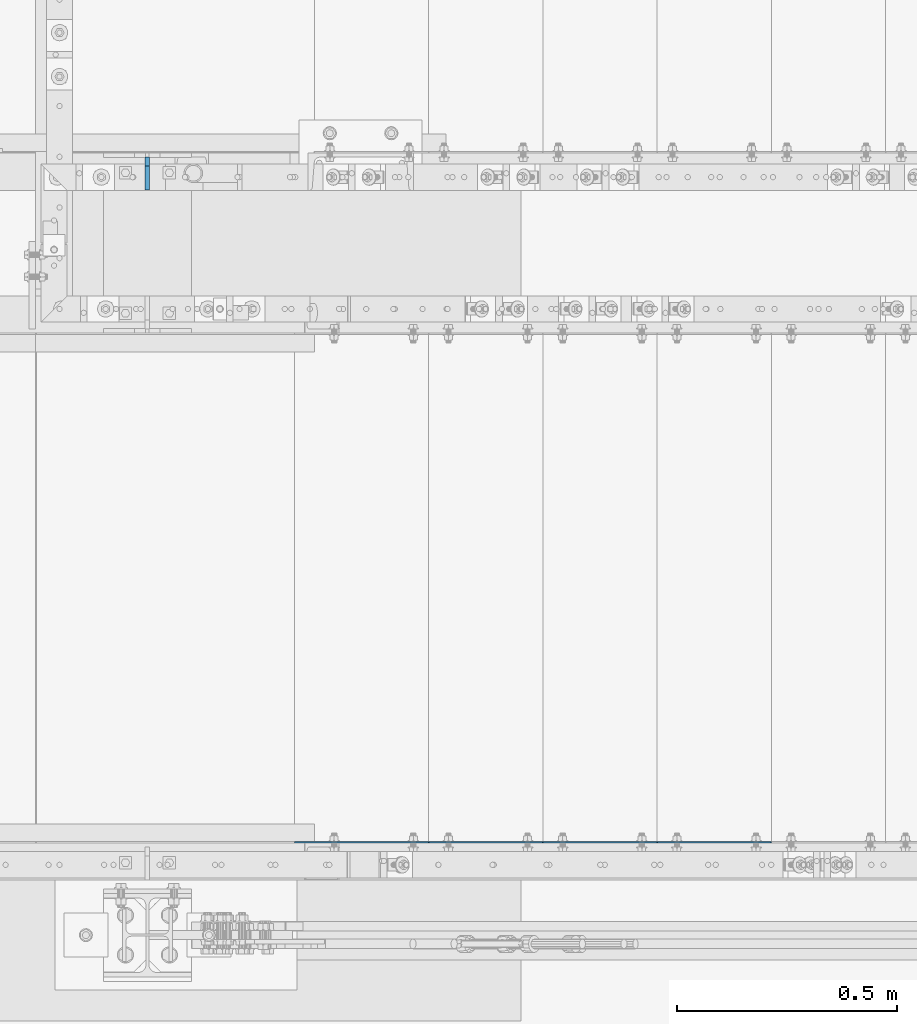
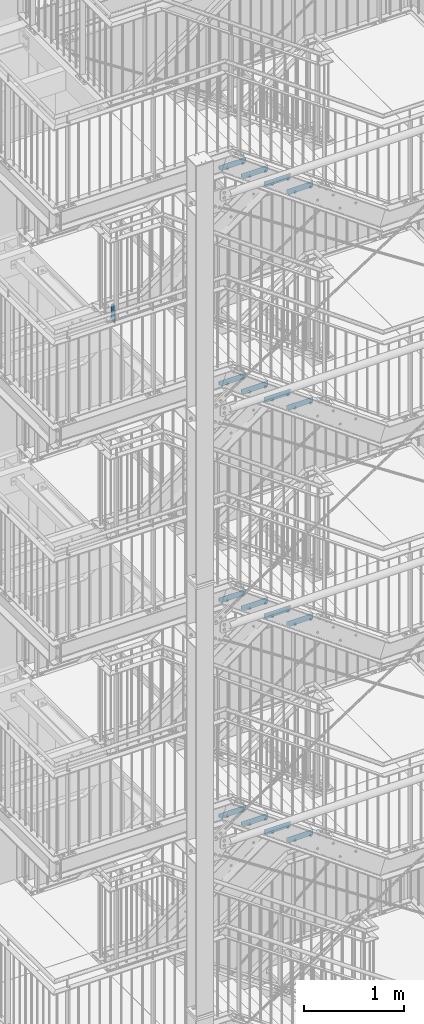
# One storey, part 165 of 821: 17 plates, 34 openings.
"""IFC2X3 building model written with IfcOpenShell, lengths in millimetres."""

from ifc_helpers import new_model, entity, si_unit, converted_unit, point, frame, frame_2d, origin, origin_with_axes, origin_2d_with_axis, place, context, project, spatial, polyline, circle_curve, line_curve, trimmed, segment, composite_curve, circle, outline, extrude, material, layer, layer_set, element, save


model = new_model("IFC2X3")

# Units and contexts
model_context = context("Model", 3, precision=1e-09, world=origin_with_axes())
ifc_project = project(units=[si_unit("LENGTHUNIT", "METRE", prefix="MILLI"), si_unit("AREAUNIT", "SQUARE_METRE"), si_unit("VOLUMEUNIT", "CUBIC_METRE"), converted_unit("PLANEANGLEUNIT", "DEGREE", entity("IfcPlaneAngleMeasure", 0.01745329), si_unit("PLANEANGLEUNIT", "RADIAN"), dimensions=[0, 0, 0, 0, 0, 0, 0])], contexts=[model_context])

# Site, building, storey
site_placement = place(None, origin_with_axes())
site = spatial("IfcSite", under=ifc_project, at=site_placement, Name="Cnopf'sche Kinderklinik", CompositionType="ELEMENT")
building_placement = place(site_placement, origin_with_axes())
building = spatial("IfcBuilding", under=site, at=building_placement, Name="Struktur 1", CompositionType="ELEMENT")
storey_placement = place(building_placement, origin_with_axes())
storey = spatial("IfcBuildingStorey", under=building, at=storey_placement, Name="Default Storey", CompositionType="ELEMENT", Elevation=0.0)

# Plate, openings
ifc_material = material(Name="S235JR")
ifc_layer_1 = layer(ifc_material, 3.0)
ifc_layer_set_1 = layer_set([ifc_layer_1], Name="S235JR")
plate_1_placement = place(None, frame((6016.713402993, 4576.736971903, 12056.0714287), z_axis=(0.0, 1.0, 0.0), x_axis=(0.0, 0.0, -1.0)))
plate_1 = element("IfcPlate", 1, at=plate_1_placement, inside=storey, material=ifc_layer_set_1, Name="Grate_Step#23", ObjectType="Grate_Step#23", context=model_context, shape_type="SweptSolid", body=[
    extrude(outline(polyline([(0.0, 0.0), (70.0, 0.0), (70.0, 275.0), (40.0, 305.0), (0.0, 305.0), (0.0, 0.0)])), origin_with_axes(), (0.0, 0.0, 1.0), 3.0),
])
opening_1_placement = place(plate_1_placement, frame((55.0, 215.0, 3.5), z_axis=(0.0, 0.0, -1.0), x_axis=(0.0, 1.0, 0.0)))
element("IfcOpeningElement", 2, at=opening_1_placement, cuts=plate_1, ObjectType="Opening", context=model_context, shape_type="SweptSolid", body=[
    extrude(outline(composite_curve([segment(trimmed(line_curve((-9.5, -7.001), (1.0, 0.0), 19.0), [point((-9.5, -7.001))], [point((9.5, -7.001))], True, "CARTESIAN"), True, "CONTINUOUS"), segment(trimmed(circle_curve(frame_2d((9.5, 0.0), x_axis=(1.0, 0.0)), 7.001), [point((9.5, -7.001))], [point((9.5, 7.001))], True, "CARTESIAN"), True, "CONTINUOUS"), segment(trimmed(line_curve((9.5, 7.001), (-1.0, 0.0), 19.0), [point((9.5, 7.001))], [point((-9.5, 7.001))], True, "CARTESIAN"), True, "CONTINUOUS"), segment(trimmed(circle_curve(frame_2d((-9.5, 0.0), x_axis=(1.0, 0.0)), 7.001), [point((-9.5, 7.001))], [point((-9.5, -7.001))], True, "CARTESIAN"), True, "CONTINUOUS")], self_intersect=False)), origin(), (0.0, 0.0, 1.0), 4.0),
])
opening_2_placement = place(plate_1_placement, frame((55.0, 35.0, 3.5), z_axis=(0.0, 0.0, -1.0), x_axis=(0.0, 1.0, 0.0)))
element("IfcOpeningElement", 3, at=opening_2_placement, cuts=plate_1, ObjectType="Opening", context=model_context, shape_type="SweptSolid", body=[
    extrude(circle(Radius=7.001, at=origin_2d_with_axis()), origin(), (0.0, 0.0, 1.0), 4.0),
])

plate_2_placement = place(None, frame((5496.713402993, 4576.736971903, 12431.3571429), z_axis=(0.0, 1.0, 0.0), x_axis=(0.0, 0.0, -1.0)))
plate_2 = element("IfcPlate", 4, at=plate_2_placement, inside=storey, material=ifc_layer_set_1, Name="Grate_Step#37", ObjectType="Grate_Step#37", context=model_context, shape_type="SweptSolid", body=[
    extrude(outline(polyline([(0.0, 0.0), (70.0, 0.0), (70.0, 275.0), (40.0, 305.0), (0.0, 305.0), (0.0, 0.0)])), origin_with_axes(), (0.0, 0.0, 1.0), 3.0),
])
opening_3_placement = place(plate_2_placement, frame((55.0, 35.0, 3.5), z_axis=(0.0, 0.0, -1.0), x_axis=(0.0, 1.0, 0.0)))
element("IfcOpeningElement", 5, at=opening_3_placement, cuts=plate_2, ObjectType="Opening", context=model_context, shape_type="SweptSolid", body=[
    extrude(circle(Radius=7.001, at=origin_2d_with_axis()), origin(), (0.0, 0.0, 1.0), 4.0),
])
opening_4_placement = place(plate_2_placement, frame((55.0, 215.0, 3.5), z_axis=(0.0, 0.0, -1.0), x_axis=(0.0, 1.0, 0.0)))
element("IfcOpeningElement", 6, at=opening_4_placement, cuts=plate_2, ObjectType="Opening", context=model_context, shape_type="SweptSolid", body=[
    extrude(outline(composite_curve([segment(trimmed(line_curve((-9.5, -7.001), (1.0, 0.0), 19.0), [point((-9.5, -7.001))], [point((9.5, -7.001))], True, "CARTESIAN"), True, "CONTINUOUS"), segment(trimmed(circle_curve(frame_2d((9.5, 0.0), x_axis=(1.0, 0.0)), 7.001), [point((9.5, -7.001))], [point((9.5, 7.001))], True, "CARTESIAN"), True, "CONTINUOUS"), segment(trimmed(line_curve((9.5, 7.001), (-1.0, 0.0), 19.0), [point((9.5, 7.001))], [point((-9.5, 7.001))], True, "CARTESIAN"), True, "CONTINUOUS"), segment(trimmed(circle_curve(frame_2d((-9.5, 0.0), x_axis=(1.0, 0.0)), 7.001), [point((-9.5, 7.001))], [point((-9.5, -7.001))], True, "CARTESIAN"), True, "CONTINUOUS")], self_intersect=False)), origin(), (0.0, 0.0, 1.0), 4.0),
])

plate_3_placement = place(None, frame((5756.713402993, 4576.736971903, 12243.7142858), z_axis=(0.0, 1.0, 0.0), x_axis=(0.0, 0.0, -1.0)))
plate_3 = element("IfcPlate", 7, at=plate_3_placement, inside=storey, material=ifc_layer_set_1, Name="Grate_Step#30", ObjectType="Grate_Step#30", context=model_context, shape_type="SweptSolid", body=[
    extrude(outline(polyline([(0.0, 0.0), (70.0, 0.0), (70.0, 275.0), (40.0, 305.0), (0.0, 305.0), (0.0, 0.0)])), origin_with_axes(), (0.0, 0.0, 1.0), 3.0),
])
opening_5_placement = place(plate_3_placement, frame((55.0, 35.0, 3.5), z_axis=(0.0, 0.0, -1.0), x_axis=(0.0, 1.0, 0.0)))
element("IfcOpeningElement", 8, at=opening_5_placement, cuts=plate_3, ObjectType="Opening", context=model_context, shape_type="SweptSolid", body=[
    extrude(circle(Radius=7.001, at=origin_2d_with_axis()), origin(), (0.0, 0.0, 1.0), 4.0),
])
opening_6_placement = place(plate_3_placement, frame((55.0, 215.0, 3.5), z_axis=(0.0, 0.0, -1.0), x_axis=(0.0, 1.0, 0.0)))
element("IfcOpeningElement", 9, at=opening_6_placement, cuts=plate_3, ObjectType="Opening", context=model_context, shape_type="SweptSolid", body=[
    extrude(outline(composite_curve([segment(trimmed(line_curve((-9.5, -7.001), (1.0, 0.0), 19.0), [point((-9.5, -7.001))], [point((9.5, -7.001))], True, "CARTESIAN"), True, "CONTINUOUS"), segment(trimmed(circle_curve(frame_2d((9.5, 0.0), x_axis=(1.0, 0.0)), 7.001), [point((9.5, -7.001))], [point((9.5, 7.001))], True, "CARTESIAN"), True, "CONTINUOUS"), segment(trimmed(line_curve((9.5, 7.001), (-1.0, 0.0), 19.0), [point((9.5, 7.001))], [point((-9.5, 7.001))], True, "CARTESIAN"), True, "CONTINUOUS"), segment(trimmed(circle_curve(frame_2d((-9.5, 0.0), x_axis=(1.0, 0.0)), 7.001), [point((-9.5, 7.001))], [point((-9.5, -7.001))], True, "CARTESIAN"), True, "CONTINUOUS")], self_intersect=False)), origin(), (0.0, 0.0, 1.0), 4.0),
])

plate_4_placement = place(None, frame((6276.713402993, 4576.736971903, 11868.4285716), z_axis=(0.0, 1.0, 0.0), x_axis=(0.0, 0.0, -1.0)))
plate_4 = element("IfcPlate", 10, at=plate_4_placement, inside=storey, material=ifc_layer_set_1, Name="Grate_Step#16", ObjectType="Grate_Step#16", context=model_context, shape_type="SweptSolid", body=[
    extrude(outline(polyline([(0.0, 0.0), (70.0, 0.0), (70.0, 275.0), (40.0, 305.0), (0.0, 305.0), (0.0, 0.0)])), origin_with_axes(), (0.0, 0.0, 1.0), 3.0),
])
opening_7_placement = place(plate_4_placement, frame((55.0, 35.0, 3.5), z_axis=(0.0, 0.0, -1.0), x_axis=(0.0, 1.0, 0.0)))
element("IfcOpeningElement", 11, at=opening_7_placement, cuts=plate_4, ObjectType="Opening", context=model_context, shape_type="SweptSolid", body=[
    extrude(circle(Radius=7.001, at=origin_2d_with_axis()), origin(), (0.0, 0.0, 1.0), 4.0),
])
opening_8_placement = place(plate_4_placement, frame((55.0, 215.0, 3.5), z_axis=(0.0, 0.0, -1.0), x_axis=(0.0, 1.0, 0.0)))
element("IfcOpeningElement", 12, at=opening_8_placement, cuts=plate_4, ObjectType="Opening", context=model_context, shape_type="SweptSolid", body=[
    extrude(outline(composite_curve([segment(trimmed(line_curve((-9.5, -7.001), (1.0, 0.0), 19.0), [point((-9.5, -7.001))], [point((9.5, -7.001))], True, "CARTESIAN"), True, "CONTINUOUS"), segment(trimmed(circle_curve(frame_2d((9.5, 0.0), x_axis=(1.0, 0.0)), 7.001), [point((9.5, -7.001))], [point((9.5, 7.001))], True, "CARTESIAN"), True, "CONTINUOUS"), segment(trimmed(line_curve((9.5, 7.001), (-1.0, 0.0), 19.0), [point((9.5, 7.001))], [point((-9.5, 7.001))], True, "CARTESIAN"), True, "CONTINUOUS"), segment(trimmed(circle_curve(frame_2d((-9.5, 0.0), x_axis=(1.0, 0.0)), 7.001), [point((-9.5, 7.001))], [point((-9.5, -7.001))], True, "CARTESIAN"), True, "CONTINUOUS")], self_intersect=False)), origin(), (0.0, 0.0, 1.0), 4.0),
])

plate_5_placement = place(None, frame((6276.713402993, 4576.736971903, 14501.1428572), z_axis=(0.0, 1.0, 0.0), x_axis=(0.0, 0.0, -1.0)))
plate_5 = element("IfcPlate", 13, at=plate_5_placement, inside=storey, material=ifc_layer_set_1, Name="Grate_Step#16", ObjectType="Grate_Step#16", context=model_context, shape_type="SweptSolid", body=[
    extrude(outline(polyline([(0.0, 0.0), (70.0, 0.0), (70.0, 275.0), (40.0, 305.0), (0.0, 305.0), (0.0, 0.0)])), origin_with_axes(), (0.0, 0.0, 1.0), 3.0),
])
opening_9_placement = place(plate_5_placement, frame((55.0, 215.0, 3.5), z_axis=(0.0, 0.0, -1.0), x_axis=(0.0, 1.0, 0.0)))
element("IfcOpeningElement", 14, at=opening_9_placement, cuts=plate_5, ObjectType="Opening", context=model_context, shape_type="SweptSolid", body=[
    extrude(outline(composite_curve([segment(trimmed(line_curve((-9.5, -7.001), (1.0, 0.0), 19.0), [point((-9.5, -7.001))], [point((9.5, -7.001))], True, "CARTESIAN"), True, "CONTINUOUS"), segment(trimmed(circle_curve(frame_2d((9.5, 0.0), x_axis=(1.0, 0.0)), 7.001), [point((9.5, -7.001))], [point((9.5, 7.001))], True, "CARTESIAN"), True, "CONTINUOUS"), segment(trimmed(line_curve((9.5, 7.001), (-1.0, 0.0), 19.0), [point((9.5, 7.001))], [point((-9.5, 7.001))], True, "CARTESIAN"), True, "CONTINUOUS"), segment(trimmed(circle_curve(frame_2d((-9.5, 0.0), x_axis=(1.0, 0.0)), 7.001), [point((-9.5, 7.001))], [point((-9.5, -7.001))], True, "CARTESIAN"), True, "CONTINUOUS")], self_intersect=False)), origin(), (0.0, 0.0, 1.0), 4.0),
])
opening_10_placement = place(plate_5_placement, frame((55.0, 35.0, 3.5), z_axis=(0.0, 0.0, -1.0), x_axis=(0.0, 1.0, 0.0)))
element("IfcOpeningElement", 15, at=opening_10_placement, cuts=plate_5, ObjectType="Opening", context=model_context, shape_type="SweptSolid", body=[
    extrude(circle(Radius=7.001, at=origin_2d_with_axis()), origin(), (0.0, 0.0, 1.0), 4.0),
])

plate_6_placement = place(None, frame((6016.713402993, 4576.736971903, 14689.3571429), z_axis=(0.0, 1.0, 0.0), x_axis=(0.0, 0.0, -1.0)))
plate_6 = element("IfcPlate", 16, at=plate_6_placement, inside=storey, material=ifc_layer_set_1, Name="Grate_Step#23", ObjectType="Grate_Step#23", context=model_context, shape_type="SweptSolid", body=[
    extrude(outline(polyline([(0.0, 0.0), (70.0, 0.0), (70.0, 275.0), (40.0, 305.0), (0.0, 305.0), (0.0, 0.0)])), origin_with_axes(), (0.0, 0.0, 1.0), 3.0),
])
opening_11_placement = place(plate_6_placement, frame((55.0, 35.0, 3.5), z_axis=(0.0, 0.0, -1.0), x_axis=(0.0, 1.0, 0.0)))
element("IfcOpeningElement", 17, at=opening_11_placement, cuts=plate_6, ObjectType="Opening", context=model_context, shape_type="SweptSolid", body=[
    extrude(circle(Radius=7.001, at=origin_2d_with_axis()), origin(), (0.0, 0.0, 1.0), 4.0),
])
opening_12_placement = place(plate_6_placement, frame((55.0, 215.0, 3.5), z_axis=(0.0, 0.0, -1.0), x_axis=(0.0, 1.0, 0.0)))
element("IfcOpeningElement", 18, at=opening_12_placement, cuts=plate_6, ObjectType="Opening", context=model_context, shape_type="SweptSolid", body=[
    extrude(outline(composite_curve([segment(trimmed(line_curve((-9.5, -7.001), (1.0, 0.0), 19.0), [point((-9.5, -7.001))], [point((9.5, -7.001))], True, "CARTESIAN"), True, "CONTINUOUS"), segment(trimmed(circle_curve(frame_2d((9.5, 0.0), x_axis=(1.0, 0.0)), 7.001), [point((9.5, -7.001))], [point((9.5, 7.001))], True, "CARTESIAN"), True, "CONTINUOUS"), segment(trimmed(line_curve((9.5, 7.001), (-1.0, 0.0), 19.0), [point((9.5, 7.001))], [point((-9.5, 7.001))], True, "CARTESIAN"), True, "CONTINUOUS"), segment(trimmed(circle_curve(frame_2d((-9.5, 0.0), x_axis=(1.0, 0.0)), 7.001), [point((-9.5, 7.001))], [point((-9.5, -7.001))], True, "CARTESIAN"), True, "CONTINUOUS")], self_intersect=False)), origin(), (0.0, 0.0, 1.0), 4.0),
])

plate_7_placement = place(None, frame((5756.713402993, 4576.736971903, 14877.5714286), z_axis=(0.0, 1.0, 0.0), x_axis=(0.0, 0.0, -1.0)))
plate_7 = element("IfcPlate", 19, at=plate_7_placement, inside=storey, material=ifc_layer_set_1, Name="Grate_Step#30", ObjectType="Grate_Step#30", context=model_context, shape_type="SweptSolid", body=[
    extrude(outline(polyline([(0.0, 0.0), (70.0, 0.0), (70.0, 275.0), (40.0, 305.0), (0.0, 305.0), (0.0, 0.0)])), origin_with_axes(), (0.0, 0.0, 1.0), 3.0),
])
opening_13_placement = place(plate_7_placement, frame((55.0, 35.0, 3.5), z_axis=(0.0, 0.0, -1.0), x_axis=(0.0, 1.0, 0.0)))
element("IfcOpeningElement", 20, at=opening_13_placement, cuts=plate_7, ObjectType="Opening", context=model_context, shape_type="SweptSolid", body=[
    extrude(circle(Radius=7.001, at=origin_2d_with_axis()), origin(), (0.0, 0.0, 1.0), 4.0),
])
opening_14_placement = place(plate_7_placement, frame((55.0, 215.0, 3.5), z_axis=(0.0, 0.0, -1.0), x_axis=(0.0, 1.0, 0.0)))
element("IfcOpeningElement", 21, at=opening_14_placement, cuts=plate_7, ObjectType="Opening", context=model_context, shape_type="SweptSolid", body=[
    extrude(outline(composite_curve([segment(trimmed(line_curve((-9.5, -7.001), (1.0, 0.0), 19.0), [point((-9.5, -7.001))], [point((9.5, -7.001))], True, "CARTESIAN"), True, "CONTINUOUS"), segment(trimmed(circle_curve(frame_2d((9.5, 0.0), x_axis=(1.0, 0.0)), 7.001), [point((9.5, -7.001))], [point((9.5, 7.001))], True, "CARTESIAN"), True, "CONTINUOUS"), segment(trimmed(line_curve((9.5, 7.001), (-1.0, 0.0), 19.0), [point((9.5, 7.001))], [point((-9.5, 7.001))], True, "CARTESIAN"), True, "CONTINUOUS"), segment(trimmed(circle_curve(frame_2d((-9.5, 0.0), x_axis=(1.0, 0.0)), 7.001), [point((-9.5, 7.001))], [point((-9.5, -7.001))], True, "CARTESIAN"), True, "CONTINUOUS")], self_intersect=False)), origin(), (0.0, 0.0, 1.0), 4.0),
])

plate_8_placement = place(None, frame((5496.713402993, 4576.736971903, 15065.7857143), z_axis=(0.0, 1.0, 0.0), x_axis=(0.0, 0.0, -1.0)))
plate_8 = element("IfcPlate", 22, at=plate_8_placement, inside=storey, material=ifc_layer_set_1, Name="Grate_Step#37", ObjectType="Grate_Step#37", context=model_context, shape_type="SweptSolid", body=[
    extrude(outline(polyline([(0.0, 0.0), (70.0, 0.0), (70.0, 275.0), (40.0, 305.0), (0.0, 305.0), (0.0, 0.0)])), origin_with_axes(), (0.0, 0.0, 1.0), 3.0),
])
opening_15_placement = place(plate_8_placement, frame((55.0, 35.0, 3.5), z_axis=(0.0, 0.0, -1.0), x_axis=(0.0, 1.0, 0.0)))
element("IfcOpeningElement", 23, at=opening_15_placement, cuts=plate_8, ObjectType="Opening", context=model_context, shape_type="SweptSolid", body=[
    extrude(circle(Radius=7.001, at=origin_2d_with_axis()), origin(), (0.0, 0.0, 1.0), 4.0),
])
opening_16_placement = place(plate_8_placement, frame((55.0, 215.0, 3.5), z_axis=(0.0, 0.0, -1.0), x_axis=(0.0, 1.0, 0.0)))
element("IfcOpeningElement", 24, at=opening_16_placement, cuts=plate_8, ObjectType="Opening", context=model_context, shape_type="SweptSolid", body=[
    extrude(outline(composite_curve([segment(trimmed(line_curve((-9.5, -7.001), (1.0, 0.0), 19.0), [point((-9.5, -7.001))], [point((9.5, -7.001))], True, "CARTESIAN"), True, "CONTINUOUS"), segment(trimmed(circle_curve(frame_2d((9.5, 0.0), x_axis=(1.0, 0.0)), 7.001), [point((9.5, -7.001))], [point((9.5, 7.001))], True, "CARTESIAN"), True, "CONTINUOUS"), segment(trimmed(line_curve((9.5, 7.001), (-1.0, 0.0), 19.0), [point((9.5, 7.001))], [point((-9.5, 7.001))], True, "CARTESIAN"), True, "CONTINUOUS"), segment(trimmed(circle_curve(frame_2d((-9.5, 0.0), x_axis=(1.0, 0.0)), 7.001), [point((-9.5, 7.001))], [point((-9.5, -7.001))], True, "CARTESIAN"), True, "CONTINUOUS")], self_intersect=False)), origin(), (0.0, 0.0, 1.0), 4.0),
])

plate_9_placement = place(None, frame((6276.713402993, 4576.736971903, 17125.4285716), z_axis=(0.0, 1.0, 0.0), x_axis=(0.0, 0.0, -1.0)))
plate_9 = element("IfcPlate", 25, at=plate_9_placement, inside=storey, material=ifc_layer_set_1, Name="Grate_Step#16", ObjectType="Grate_Step#16", context=model_context, shape_type="SweptSolid", body=[
    extrude(outline(polyline([(0.0, 0.0), (70.0, 0.0), (70.0, 275.0), (40.0, 305.0), (0.0, 305.0), (0.0, 0.0)])), origin_with_axes(), (0.0, 0.0, 1.0), 3.0),
])
opening_17_placement = place(plate_9_placement, frame((55.0, 35.0, 3.5), z_axis=(0.0, 0.0, -1.0), x_axis=(0.0, 1.0, 0.0)))
element("IfcOpeningElement", 26, at=opening_17_placement, cuts=plate_9, ObjectType="Opening", context=model_context, shape_type="SweptSolid", body=[
    extrude(circle(Radius=7.001, at=origin_2d_with_axis()), origin(), (0.0, 0.0, 1.0), 4.0),
])
opening_18_placement = place(plate_9_placement, frame((55.0, 215.0, 3.5), z_axis=(0.0, 0.0, -1.0), x_axis=(0.0, 1.0, 0.0)))
element("IfcOpeningElement", 27, at=opening_18_placement, cuts=plate_9, ObjectType="Opening", context=model_context, shape_type="SweptSolid", body=[
    extrude(outline(composite_curve([segment(trimmed(line_curve((-9.5, -7.001), (1.0, 0.0), 19.0), [point((-9.5, -7.001))], [point((9.5, -7.001))], True, "CARTESIAN"), True, "CONTINUOUS"), segment(trimmed(circle_curve(frame_2d((9.5, 0.0), x_axis=(1.0, 0.0)), 7.001), [point((9.5, -7.001))], [point((9.5, 7.001))], True, "CARTESIAN"), True, "CONTINUOUS"), segment(trimmed(line_curve((9.5, 7.001), (-1.0, 0.0), 19.0), [point((9.5, 7.001))], [point((-9.5, 7.001))], True, "CARTESIAN"), True, "CONTINUOUS"), segment(trimmed(circle_curve(frame_2d((-9.5, 0.0), x_axis=(1.0, 0.0)), 7.001), [point((-9.5, 7.001))], [point((-9.5, -7.001))], True, "CARTESIAN"), True, "CONTINUOUS")], self_intersect=False)), origin(), (0.0, 0.0, 1.0), 4.0),
])

plate_10_placement = place(None, frame((6016.713402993, 4576.736971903, 17312.5714287), z_axis=(0.0, 1.0, 0.0), x_axis=(0.0, 0.0, -1.0)))
plate_10 = element("IfcPlate", 28, at=plate_10_placement, inside=storey, material=ifc_layer_set_1, Name="Grate_Step#23", ObjectType="Grate_Step#23", context=model_context, shape_type="SweptSolid", body=[
    extrude(outline(polyline([(0.0, 0.0), (70.0, 0.0), (70.0, 275.0), (40.0, 305.0), (0.0, 305.0), (0.0, 0.0)])), origin_with_axes(), (0.0, 0.0, 1.0), 3.0),
])
opening_19_placement = place(plate_10_placement, frame((55.0, 215.0, 3.5), z_axis=(0.0, 0.0, -1.0), x_axis=(0.0, 1.0, 0.0)))
element("IfcOpeningElement", 29, at=opening_19_placement, cuts=plate_10, ObjectType="Opening", context=model_context, shape_type="SweptSolid", body=[
    extrude(outline(composite_curve([segment(trimmed(line_curve((-9.5, -7.001), (1.0, 0.0), 19.0), [point((-9.5, -7.001))], [point((9.5, -7.001))], True, "CARTESIAN"), True, "CONTINUOUS"), segment(trimmed(circle_curve(frame_2d((9.5, 0.0), x_axis=(1.0, 0.0)), 7.001), [point((9.5, -7.001))], [point((9.5, 7.001))], True, "CARTESIAN"), True, "CONTINUOUS"), segment(trimmed(line_curve((9.5, 7.001), (-1.0, 0.0), 19.0), [point((9.5, 7.001))], [point((-9.5, 7.001))], True, "CARTESIAN"), True, "CONTINUOUS"), segment(trimmed(circle_curve(frame_2d((-9.5, 0.0), x_axis=(1.0, 0.0)), 7.001), [point((-9.5, 7.001))], [point((-9.5, -7.001))], True, "CARTESIAN"), True, "CONTINUOUS")], self_intersect=False)), origin(), (0.0, 0.0, 1.0), 4.0),
])
opening_20_placement = place(plate_10_placement, frame((55.0, 35.0, 3.5), z_axis=(0.0, 0.0, -1.0), x_axis=(0.0, 1.0, 0.0)))
element("IfcOpeningElement", 30, at=opening_20_placement, cuts=plate_10, ObjectType="Opening", context=model_context, shape_type="SweptSolid", body=[
    extrude(circle(Radius=7.001, at=origin_2d_with_axis()), origin(), (0.0, 0.0, 1.0), 4.0),
])

plate_11_placement = place(None, frame((5756.713402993, 4576.736971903, 17499.7142858), z_axis=(0.0, 1.0, 0.0), x_axis=(0.0, 0.0, -1.0)))
plate_11 = element("IfcPlate", 31, at=plate_11_placement, inside=storey, material=ifc_layer_set_1, Name="Grate_Step#30", ObjectType="Grate_Step#30", context=model_context, shape_type="SweptSolid", body=[
    extrude(outline(polyline([(0.0, 0.0), (70.0, 0.0), (70.0, 275.0), (40.0, 305.0), (0.0, 305.0), (0.0, 0.0)])), origin_with_axes(), (0.0, 0.0, 1.0), 3.0),
])
opening_21_placement = place(plate_11_placement, frame((55.0, 35.0, 3.5), z_axis=(0.0, 0.0, -1.0), x_axis=(0.0, 1.0, 0.0)))
element("IfcOpeningElement", 32, at=opening_21_placement, cuts=plate_11, ObjectType="Opening", context=model_context, shape_type="SweptSolid", body=[
    extrude(circle(Radius=7.001, at=origin_2d_with_axis()), origin(), (0.0, 0.0, 1.0), 4.0),
])
opening_22_placement = place(plate_11_placement, frame((55.0, 215.0, 3.5), z_axis=(0.0, 0.0, -1.0), x_axis=(0.0, 1.0, 0.0)))
element("IfcOpeningElement", 33, at=opening_22_placement, cuts=plate_11, ObjectType="Opening", context=model_context, shape_type="SweptSolid", body=[
    extrude(outline(composite_curve([segment(trimmed(line_curve((-9.5, -7.001), (1.0, 0.0), 19.0), [point((-9.5, -7.001))], [point((9.5, -7.001))], True, "CARTESIAN"), True, "CONTINUOUS"), segment(trimmed(circle_curve(frame_2d((9.5, 0.0), x_axis=(1.0, 0.0)), 7.001), [point((9.5, -7.001))], [point((9.5, 7.001))], True, "CARTESIAN"), True, "CONTINUOUS"), segment(trimmed(line_curve((9.5, 7.001), (-1.0, 0.0), 19.0), [point((9.5, 7.001))], [point((-9.5, 7.001))], True, "CARTESIAN"), True, "CONTINUOUS"), segment(trimmed(circle_curve(frame_2d((-9.5, 0.0), x_axis=(1.0, 0.0)), 7.001), [point((-9.5, 7.001))], [point((-9.5, -7.001))], True, "CARTESIAN"), True, "CONTINUOUS")], self_intersect=False)), origin(), (0.0, 0.0, 1.0), 4.0),
])

plate_12_placement = place(None, frame((5496.713402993, 4576.736971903, 17686.8571429), z_axis=(0.0, 1.0, 0.0), x_axis=(0.0, 0.0, -1.0)))
plate_12 = element("IfcPlate", 34, at=plate_12_placement, inside=storey, material=ifc_layer_set_1, Name="Grate_Step#37", ObjectType="Grate_Step#37", context=model_context, shape_type="SweptSolid", body=[
    extrude(outline(polyline([(0.0, 0.0), (70.0, 0.0), (70.0, 275.0), (40.0, 305.0), (0.0, 305.0), (0.0, 0.0)])), origin_with_axes(), (0.0, 0.0, 1.0), 3.0),
])
opening_23_placement = place(plate_12_placement, frame((55.0, 35.0, 3.5), z_axis=(0.0, 0.0, -1.0), x_axis=(0.0, 1.0, 0.0)))
element("IfcOpeningElement", 35, at=opening_23_placement, cuts=plate_12, ObjectType="Opening", context=model_context, shape_type="SweptSolid", body=[
    extrude(circle(Radius=7.001, at=origin_2d_with_axis()), origin(), (0.0, 0.0, 1.0), 4.0),
])
opening_24_placement = place(plate_12_placement, frame((55.0, 215.0, 3.5), z_axis=(0.0, 0.0, -1.0), x_axis=(0.0, 1.0, 0.0)))
element("IfcOpeningElement", 36, at=opening_24_placement, cuts=plate_12, ObjectType="Opening", context=model_context, shape_type="SweptSolid", body=[
    extrude(outline(composite_curve([segment(trimmed(line_curve((-9.5, -7.001), (1.0, 0.0), 19.0), [point((-9.5, -7.001))], [point((9.5, -7.001))], True, "CARTESIAN"), True, "CONTINUOUS"), segment(trimmed(circle_curve(frame_2d((9.5, 0.0), x_axis=(1.0, 0.0)), 7.001), [point((9.5, -7.001))], [point((9.5, 7.001))], True, "CARTESIAN"), True, "CONTINUOUS"), segment(trimmed(line_curve((9.5, 7.001), (-1.0, 0.0), 19.0), [point((9.5, 7.001))], [point((-9.5, 7.001))], True, "CARTESIAN"), True, "CONTINUOUS"), segment(trimmed(circle_curve(frame_2d((-9.5, 0.0), x_axis=(1.0, 0.0)), 7.001), [point((-9.5, 7.001))], [point((-9.5, -7.001))], True, "CARTESIAN"), True, "CONTINUOUS")], self_intersect=False)), origin(), (0.0, 0.0, 1.0), 4.0),
])

plate_13_placement = place(None, frame((6276.713402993, 4576.736971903, 9240.0), z_axis=(0.0, 1.0, 0.0), x_axis=(0.0, 0.0, -1.0)))
plate_13 = element("IfcPlate", 37, at=plate_13_placement, inside=storey, material=ifc_layer_set_1, Name="Grate_Step#16", ObjectType="Grate_Step#16", context=model_context, shape_type="SweptSolid", body=[
    extrude(outline(polyline([(0.0, 0.0), (70.0, 0.0), (70.0, 275.0), (40.0, 305.0), (0.0, 305.0), (0.0, 0.0)])), origin_with_axes(), (0.0, 0.0, 1.0), 3.0),
])
opening_25_placement = place(plate_13_placement, frame((55.0, 35.0, 3.5), z_axis=(0.0, 0.0, -1.0), x_axis=(0.0, 1.0, 0.0)))
element("IfcOpeningElement", 38, at=opening_25_placement, cuts=plate_13, ObjectType="Opening", context=model_context, shape_type="SweptSolid", body=[
    extrude(circle(Radius=7.001, at=origin_2d_with_axis()), origin(), (0.0, 0.0, 1.0), 4.0),
])
opening_26_placement = place(plate_13_placement, frame((55.0, 215.0, 3.5), z_axis=(0.0, 0.0, -1.0), x_axis=(0.0, 1.0, 0.0)))
element("IfcOpeningElement", 39, at=opening_26_placement, cuts=plate_13, ObjectType="Opening", context=model_context, shape_type="SweptSolid", body=[
    extrude(outline(composite_curve([segment(trimmed(line_curve((-9.5, -7.001), (1.0, 0.0), 19.0), [point((-9.5, -7.001))], [point((9.5, -7.001))], True, "CARTESIAN"), True, "CONTINUOUS"), segment(trimmed(circle_curve(frame_2d((9.5, 0.0), x_axis=(1.0, 0.0)), 7.001), [point((9.5, -7.001))], [point((9.5, 7.001))], True, "CARTESIAN"), True, "CONTINUOUS"), segment(trimmed(line_curve((9.5, 7.001), (-1.0, 0.0), 19.0), [point((9.5, 7.001))], [point((-9.5, 7.001))], True, "CARTESIAN"), True, "CONTINUOUS"), segment(trimmed(circle_curve(frame_2d((-9.5, 0.0), x_axis=(1.0, 0.0)), 7.001), [point((-9.5, 7.001))], [point((-9.5, -7.001))], True, "CARTESIAN"), True, "CONTINUOUS")], self_intersect=False)), origin(), (0.0, 0.0, 1.0), 4.0),
])

plate_14_placement = place(None, frame((6016.713402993, 4576.736971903, 9428.0), z_axis=(0.0, 1.0, 0.0), x_axis=(0.0, 0.0, -1.0)))
plate_14 = element("IfcPlate", 40, at=plate_14_placement, inside=storey, material=ifc_layer_set_1, Name="Grate_Step#23", ObjectType="Grate_Step#23", context=model_context, shape_type="SweptSolid", body=[
    extrude(outline(polyline([(0.0, 0.0), (70.0, 0.0), (70.0, 275.0), (40.0, 305.0), (0.0, 305.0), (0.0, 0.0)])), origin_with_axes(), (0.0, 0.0, 1.0), 3.0),
])
opening_27_placement = place(plate_14_placement, frame((55.0, 215.0, 3.5), z_axis=(0.0, 0.0, -1.0), x_axis=(0.0, 1.0, 0.0)))
element("IfcOpeningElement", 41, at=opening_27_placement, cuts=plate_14, ObjectType="Opening", context=model_context, shape_type="SweptSolid", body=[
    extrude(outline(composite_curve([segment(trimmed(line_curve((-9.5, -7.001), (1.0, 0.0), 19.0), [point((-9.5, -7.001))], [point((9.5, -7.001))], True, "CARTESIAN"), True, "CONTINUOUS"), segment(trimmed(circle_curve(frame_2d((9.5, 0.0), x_axis=(1.0, 0.0)), 7.001), [point((9.5, -7.001))], [point((9.5, 7.001))], True, "CARTESIAN"), True, "CONTINUOUS"), segment(trimmed(line_curve((9.5, 7.001), (-1.0, 0.0), 19.0), [point((9.5, 7.001))], [point((-9.5, 7.001))], True, "CARTESIAN"), True, "CONTINUOUS"), segment(trimmed(circle_curve(frame_2d((-9.5, 0.0), x_axis=(1.0, 0.0)), 7.001), [point((-9.5, 7.001))], [point((-9.5, -7.001))], True, "CARTESIAN"), True, "CONTINUOUS")], self_intersect=False)), origin(), (0.0, 0.0, 1.0), 4.0),
])
opening_28_placement = place(plate_14_placement, frame((55.0, 35.0, 3.5), z_axis=(0.0, 0.0, -1.0), x_axis=(0.0, 1.0, 0.0)))
element("IfcOpeningElement", 42, at=opening_28_placement, cuts=plate_14, ObjectType="Opening", context=model_context, shape_type="SweptSolid", body=[
    extrude(circle(Radius=7.001, at=origin_2d_with_axis()), origin(), (0.0, 0.0, 1.0), 4.0),
])

plate_15_placement = place(None, frame((5756.713402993, 4576.736971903, 9616.0), z_axis=(0.0, 1.0, 0.0), x_axis=(0.0, 0.0, -1.0)))
plate_15 = element("IfcPlate", 43, at=plate_15_placement, inside=storey, material=ifc_layer_set_1, Name="Grate_Step#30", ObjectType="Grate_Step#30", context=model_context, shape_type="SweptSolid", body=[
    extrude(outline(polyline([(0.0, 0.0), (70.0, 0.0), (70.0, 275.0), (40.0, 305.0), (0.0, 305.0), (0.0, 0.0)])), origin_with_axes(), (0.0, 0.0, 1.0), 3.0),
])
opening_29_placement = place(plate_15_placement, frame((55.0, 35.0, 3.5), z_axis=(0.0, 0.0, -1.0), x_axis=(0.0, 1.0, 0.0)))
element("IfcOpeningElement", 44, at=opening_29_placement, cuts=plate_15, ObjectType="Opening", context=model_context, shape_type="SweptSolid", body=[
    extrude(circle(Radius=7.001, at=origin_2d_with_axis()), origin(), (0.0, 0.0, 1.0), 4.0),
])
opening_30_placement = place(plate_15_placement, frame((55.0, 215.0, 3.5), z_axis=(0.0, 0.0, -1.0), x_axis=(0.0, 1.0, 0.0)))
element("IfcOpeningElement", 45, at=opening_30_placement, cuts=plate_15, ObjectType="Opening", context=model_context, shape_type="SweptSolid", body=[
    extrude(outline(composite_curve([segment(trimmed(line_curve((-9.5, -7.001), (1.0, 0.0), 19.0), [point((-9.5, -7.001))], [point((9.5, -7.001))], True, "CARTESIAN"), True, "CONTINUOUS"), segment(trimmed(circle_curve(frame_2d((9.5, 0.0), x_axis=(1.0, 0.0)), 7.001), [point((9.5, -7.001))], [point((9.5, 7.001))], True, "CARTESIAN"), True, "CONTINUOUS"), segment(trimmed(line_curve((9.5, 7.001), (-1.0, 0.0), 19.0), [point((9.5, 7.001))], [point((-9.5, 7.001))], True, "CARTESIAN"), True, "CONTINUOUS"), segment(trimmed(circle_curve(frame_2d((-9.5, 0.0), x_axis=(1.0, 0.0)), 7.001), [point((-9.5, 7.001))], [point((-9.5, -7.001))], True, "CARTESIAN"), True, "CONTINUOUS")], self_intersect=False)), origin(), (0.0, 0.0, 1.0), 4.0),
])

plate_16_placement = place(None, frame((5496.713402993, 4576.736971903, 9804.0), z_axis=(0.0, 1.0, 0.0), x_axis=(0.0, 0.0, -1.0)))
plate_16 = element("IfcPlate", 46, at=plate_16_placement, inside=storey, material=ifc_layer_set_1, Name="Grate_Step#37", ObjectType="Grate_Step#37", context=model_context, shape_type="SweptSolid", body=[
    extrude(outline(polyline([(0.0, 0.0), (70.0, 0.0), (70.0, 275.0), (40.0, 305.0), (0.0, 305.0), (0.0, 0.0)])), origin_with_axes(), (0.0, 0.0, 1.0), 3.0),
])
opening_31_placement = place(plate_16_placement, frame((55.0, 35.0, 3.5), z_axis=(0.0, 0.0, -1.0), x_axis=(0.0, 1.0, 0.0)))
element("IfcOpeningElement", 47, at=opening_31_placement, cuts=plate_16, ObjectType="Opening", context=model_context, shape_type="SweptSolid", body=[
    extrude(circle(Radius=7.001, at=origin_2d_with_axis()), origin(), (0.0, 0.0, 1.0), 4.0),
])
opening_32_placement = place(plate_16_placement, frame((55.0, 215.0, 3.5), z_axis=(0.0, 0.0, -1.0), x_axis=(0.0, 1.0, 0.0)))
element("IfcOpeningElement", 48, at=opening_32_placement, cuts=plate_16, ObjectType="Opening", context=model_context, shape_type="SweptSolid", body=[
    extrude(outline(composite_curve([segment(trimmed(line_curve((-9.5, -7.001), (1.0, 0.0), 19.0), [point((-9.5, -7.001))], [point((9.5, -7.001))], True, "CARTESIAN"), True, "CONTINUOUS"), segment(trimmed(circle_curve(frame_2d((9.5, 0.0), x_axis=(1.0, 0.0)), 7.001), [point((9.5, -7.001))], [point((9.5, 7.001))], True, "CARTESIAN"), True, "CONTINUOUS"), segment(trimmed(line_curve((9.5, 7.001), (-1.0, 0.0), 19.0), [point((9.5, 7.001))], [point((-9.5, 7.001))], True, "CARTESIAN"), True, "CONTINUOUS"), segment(trimmed(circle_curve(frame_2d((-9.5, 0.0), x_axis=(1.0, 0.0)), 7.001), [point((-9.5, 7.001))], [point((-9.5, -7.001))], True, "CARTESIAN"), True, "CONTINUOUS")], self_intersect=False)), origin(), (0.0, 0.0, 1.0), 4.0),
])

ifc_layer_2 = layer(ifc_material, 10.0)
ifc_layer_set_2 = layer_set([ifc_layer_2], Name="S235JR")
plate_17_placement = place(None, frame((4861.713402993, 6062.236971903, 15202.855265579), z_axis=(-1.0, 0.0, 0.0), x_axis=(0.0, 0.996815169, -0.079746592)))
plate_17 = element("IfcPlate", 49, at=plate_17_placement, inside=storey, material=ifc_layer_set_2, Name="Stiffener#1", ObjectType="Stiffener#1", context=model_context, shape_type="SweptSolid", body=[
    extrude(outline(polyline([(0.0, 0.0), (75.239625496, 0.0), (91.644322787, 205.05517107), (17.361672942, 217.017159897), (0.0, 0.0)])), origin_with_axes(), (0.0, 0.0, 1.0), 10.0),
])
opening_33_placement = place(plate_17_placement, frame((0.0, 0.0, -0.01), z_axis=(0.0, 0.0, 1.0), x_axis=(1.0, 0.0, 0.0)))
element("IfcOpeningElement", 50, at=opening_33_placement, cuts=plate_17, ObjectType="Opening", context=model_context, shape_type="SweptSolid", body=[
    extrude(outline(polyline([(91.644322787, 205.05517107), (71.898703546, 208.23487558), (90.049390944, 185.118867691), (91.644322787, 205.05517107)])), origin(), (0.0, 0.0, 1.0), 10.02),
])
opening_34_placement = place(plate_17_placement, frame((0.0, 0.0, -0.01), z_axis=(0.0, 0.0, 1.0), x_axis=(1.0, 0.0, 0.0)))
element("IfcOpeningElement", 51, at=opening_34_placement, cuts=plate_17, ObjectType="Opening", context=model_context, shape_type="SweptSolid", body=[
    extrude(outline(polyline([(75.239625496, 0.0), (76.83455734, 19.936303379), (55.239625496, 0.0), (75.239625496, 0.0)])), origin(), (0.0, 0.0, 1.0), 10.02),
])

save(model, "model.ifc")
